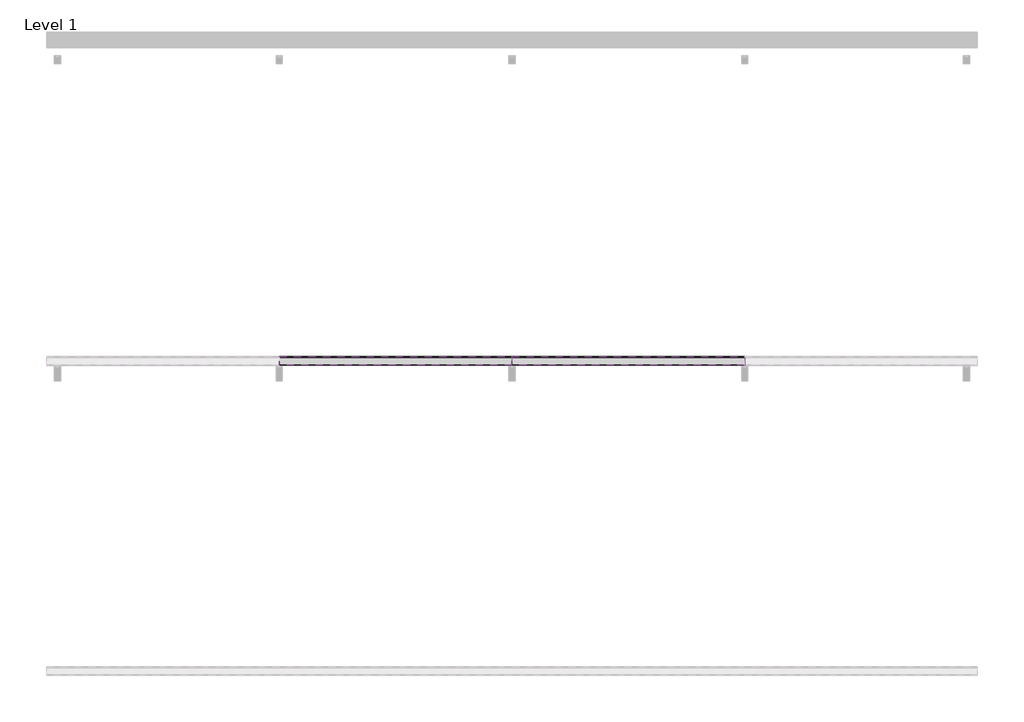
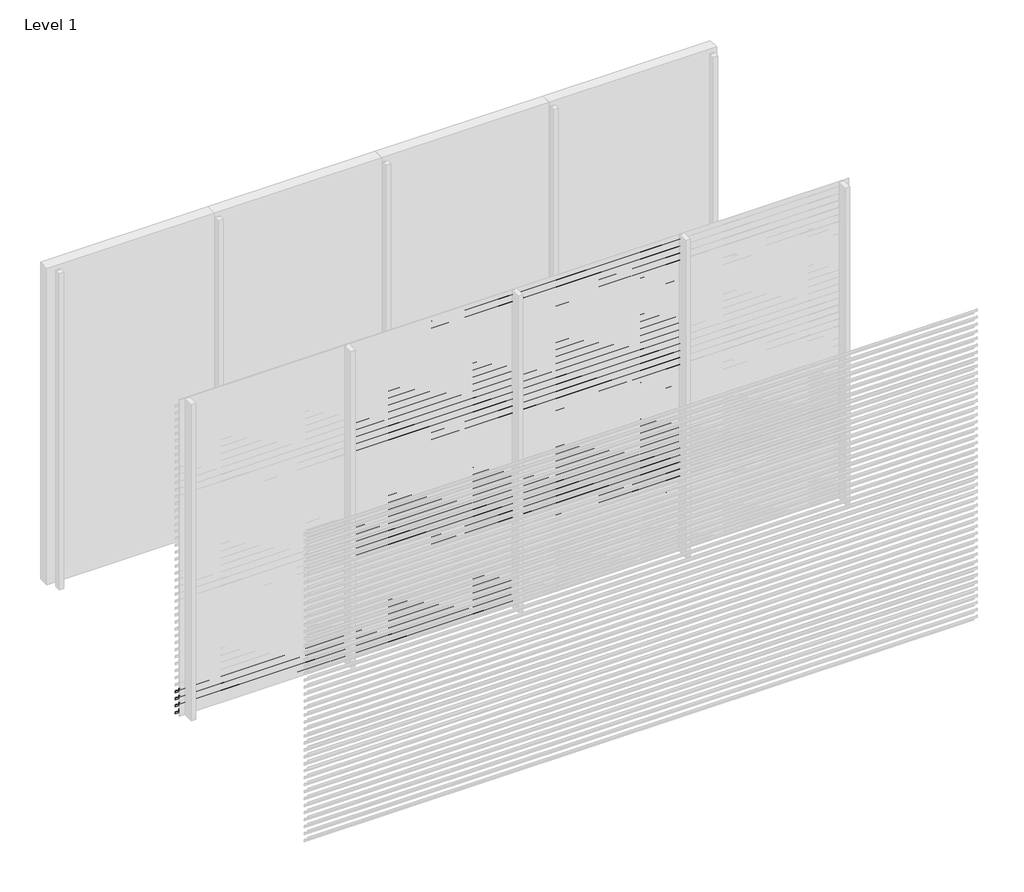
# One storey, part 9 of 25: 87 proxies.
"""IFC4 building model written with IfcOpenShell, lengths in millimetres."""

from ifc_helpers import new_model, si_unit, frame, origin, place, context, project, spatial, polyline, outline, extrude, element, save

model = new_model("IFC4")

# Units and contexts
model_context = context("Model", 3, world=origin())
ifc_project = project(units=[si_unit("LENGTHUNIT", "METRE", prefix="MILLI")], contexts=[model_context])

# Site, building, storey
site = spatial("IfcSite", under=ifc_project)
building = spatial("IfcBuilding", under=site)
storey = spatial("IfcBuildingStorey", under=building, Name="Level 1", Elevation=0.0)

# Proxies
placement = place(None, origin())
element("IfcBuildingElementProxy", 1, Name="Wall Sweeps", at=placement, inside=storey, context=model_context, shape_type="SweptSolid", body=[
    extrude(outline(polyline([(-35943.0, 207.5), (-35943.0, 187.5), (-35944.25, 188.2216933), (-35944.25, 206.7872415), (-35998.0, 244.3158044), (-35998.0, 264.0), (-35996.75, 264.0), (-35996.75, 245.0285629), (-35943.0, 207.5)])), frame((0.0, 0.0, 0.0), z_axis=(1.0, 0.0, 0.0), x_axis=(0.0, 1.0, 0.0)), (0.0, 0.0, 1.0), 1500.0),
])
element("IfcBuildingElementProxy", 2, Name="Wall Sweeps", at=placement, inside=storey, context=model_context, shape_type="SweptSolid", body=[
    extrude(outline(polyline([(-35943.0, 141.5), (-35943.0, 121.5), (-35944.25, 122.2216933), (-35944.25, 140.7872415), (-35998.0, 178.3158044), (-35998.0, 198.0), (-35996.75, 198.0), (-35996.75, 179.0285629), (-35943.0, 141.5)])), frame((0.0, 0.0, 0.0), z_axis=(1.0, 0.0, 0.0), x_axis=(0.0, 1.0, 0.0)), (0.0, 0.0, 1.0), 1500.0),
])
element("IfcBuildingElementProxy", 3, Name="Wall Sweeps", at=placement, inside=storey, context=model_context, shape_type="SweptSolid", body=[
    extrude(outline(polyline([(-35943.0, 75.5), (-35943.0, 55.5), (-35944.25, 56.2216933), (-35944.25, 74.7872415), (-35998.0, 112.3158044), (-35998.0, 132.0), (-35996.75, 132.0), (-35996.75, 113.0285629), (-35943.0, 75.5)])), frame((0.0, 0.0, 0.0), z_axis=(1.0, 0.0, 0.0), x_axis=(0.0, 1.0, 0.0)), (0.0, 0.0, 1.0), 1500.0),
])
element("IfcBuildingElementProxy", 4, Name="Wall Sweeps", at=placement, inside=storey, context=model_context, shape_type="SweptSolid", body=[
    extrude(outline(polyline([(-35943.0, 9.5), (-35943.0, -10.5), (-35944.25, -9.7783067), (-35944.25, 8.7872415), (-35998.0, 46.3158044), (-35998.0, 66.0), (-35996.75, 66.0), (-35996.75, 47.0285629), (-35943.0, 9.5)])), frame((0.0, 0.0, 0.0), z_axis=(1.0, 0.0, 0.0), x_axis=(0.0, 1.0, 0.0)), (0.0, 0.0, 1.0), 1500.0),
])
element("IfcBuildingElementProxy", 5, Name="Wall Sweeps", at=placement, inside=storey, context=model_context, shape_type="SweptSolid", body=[
    extrude(outline(polyline([(-35943.0, 2913.5), (-35943.0, 2893.5), (-35944.25, 2894.2216933), (-35944.25, 2912.7872415), (-35998.0, 2950.3158044), (-35998.0, 2970.0), (-35996.75, 2970.0), (-35996.75, 2951.0285629), (-35943.0, 2913.5)])), frame((1500.0, 0.0, 0.0), z_axis=(1.0, 0.0, 0.0), x_axis=(0.0, 1.0, 0.0)), (0.0, 0.0, 1.0), 1500.0),
])
element("IfcBuildingElementProxy", 6, Name="Wall Sweeps", at=placement, inside=storey, context=model_context, shape_type="SweptSolid", body=[
    extrude(outline(polyline([(-35943.0, 2847.5), (-35943.0, 2827.5), (-35944.25, 2828.2216933), (-35944.25, 2846.7872415), (-35998.0, 2884.3158044), (-35998.0, 2904.0), (-35996.75, 2904.0), (-35996.75, 2885.0285629), (-35943.0, 2847.5)])), frame((1500.0, 0.0, 0.0), z_axis=(1.0, 0.0, 0.0), x_axis=(0.0, 1.0, 0.0)), (0.0, 0.0, 1.0), 1500.0),
])
element("IfcBuildingElementProxy", 7, Name="Wall Sweeps", at=placement, inside=storey, context=model_context, shape_type="SweptSolid", body=[
    extrude(outline(polyline([(-35943.0, 2781.5), (-35943.0, 2761.5), (-35944.25, 2762.2216933), (-35944.25, 2780.7872415), (-35998.0, 2818.3158044), (-35998.0, 2838.0), (-35996.75, 2838.0), (-35996.75, 2819.0285629), (-35943.0, 2781.5)])), frame((1500.0, 0.0, 0.0), z_axis=(1.0, 0.0, 0.0), x_axis=(0.0, 1.0, 0.0)), (0.0, 0.0, 1.0), 1500.0),
])
element("IfcBuildingElementProxy", 8, Name="Wall Sweeps", at=placement, inside=storey, context=model_context, shape_type="SweptSolid", body=[
    extrude(outline(polyline([(-35943.0, 2715.5), (-35943.0, 2695.5), (-35944.25, 2696.2216933), (-35944.25, 2714.7872415), (-35998.0, 2752.3158044), (-35998.0, 2772.0), (-35996.75, 2772.0), (-35996.75, 2753.0285629), (-35943.0, 2715.5)])), frame((1500.0, 0.0, 0.0), z_axis=(1.0, 0.0, 0.0), x_axis=(0.0, 1.0, 0.0)), (0.0, 0.0, 1.0), 1500.0),
])
element("IfcBuildingElementProxy", 9, Name="Wall Sweeps", at=placement, inside=storey, context=model_context, shape_type="SweptSolid", body=[
    extrude(outline(polyline([(-35943.0, 2649.5), (-35943.0, 2629.5), (-35944.25, 2630.2216933), (-35944.25, 2648.7872415), (-35998.0, 2686.3158044), (-35998.0, 2706.0), (-35996.75, 2706.0), (-35996.75, 2687.0285629), (-35943.0, 2649.5)])), frame((1500.0, 0.0, 0.0), z_axis=(1.0, 0.0, 0.0), x_axis=(0.0, 1.0, 0.0)), (0.0, 0.0, 1.0), 1500.0),
])
element("IfcBuildingElementProxy", 10, Name="Wall Sweeps", at=placement, inside=storey, context=model_context, shape_type="SweptSolid", body=[
    extrude(outline(polyline([(-35943.0, 2583.5), (-35943.0, 2563.5), (-35944.25, 2564.2216933), (-35944.25, 2582.7872415), (-35998.0, 2620.3158044), (-35998.0, 2640.0), (-35996.75, 2640.0), (-35996.75, 2621.0285629), (-35943.0, 2583.5)])), frame((1500.0, 0.0, 0.0), z_axis=(1.0, 0.0, 0.0), x_axis=(0.0, 1.0, 0.0)), (0.0, 0.0, 1.0), 1500.0),
])
element("IfcBuildingElementProxy", 11, Name="Wall Sweeps", at=placement, inside=storey, context=model_context, shape_type="SweptSolid", body=[
    extrude(outline(polyline([(-35943.0, 2517.5), (-35943.0, 2497.5), (-35944.25, 2498.2216933), (-35944.25, 2516.7872415), (-35998.0, 2554.3158044), (-35998.0, 2574.0), (-35996.75, 2574.0), (-35996.75, 2555.0285629), (-35943.0, 2517.5)])), frame((1500.0, 0.0, 0.0), z_axis=(1.0, 0.0, 0.0), x_axis=(0.0, 1.0, 0.0)), (0.0, 0.0, 1.0), 1500.0),
])
element("IfcBuildingElementProxy", 12, Name="Wall Sweeps", at=placement, inside=storey, context=model_context, shape_type="SweptSolid", body=[
    extrude(outline(polyline([(-35943.0, 2451.5), (-35943.0, 2431.5), (-35944.25, 2432.2216933), (-35944.25, 2450.7872415), (-35998.0, 2488.3158044), (-35998.0, 2508.0), (-35996.75, 2508.0), (-35996.75, 2489.0285629), (-35943.0, 2451.5)])), frame((1500.0, 0.0, 0.0), z_axis=(1.0, 0.0, 0.0), x_axis=(0.0, 1.0, 0.0)), (0.0, 0.0, 1.0), 1500.0),
])
element("IfcBuildingElementProxy", 13, Name="Wall Sweeps", at=placement, inside=storey, context=model_context, shape_type="SweptSolid", body=[
    extrude(outline(polyline([(-35943.0, 2385.5), (-35943.0, 2365.5), (-35944.25, 2366.2216933), (-35944.25, 2384.7872415), (-35998.0, 2422.3158044), (-35998.0, 2442.0), (-35996.75, 2442.0), (-35996.75, 2423.0285629), (-35943.0, 2385.5)])), frame((1500.0, 0.0, 0.0), z_axis=(1.0, 0.0, 0.0), x_axis=(0.0, 1.0, 0.0)), (0.0, 0.0, 1.0), 1500.0),
])
element("IfcBuildingElementProxy", 14, Name="Wall Sweeps", at=placement, inside=storey, context=model_context, shape_type="SweptSolid", body=[
    extrude(outline(polyline([(-35943.0, 2319.5), (-35943.0, 2299.5), (-35944.25, 2300.2216933), (-35944.25, 2318.7872415), (-35998.0, 2356.3158044), (-35998.0, 2376.0), (-35996.75, 2376.0), (-35996.75, 2357.0285629), (-35943.0, 2319.5)])), frame((1500.0, 0.0, 0.0), z_axis=(1.0, 0.0, 0.0), x_axis=(0.0, 1.0, 0.0)), (0.0, 0.0, 1.0), 1500.0),
])
element("IfcBuildingElementProxy", 15, Name="Wall Sweeps", at=placement, inside=storey, context=model_context, shape_type="SweptSolid", body=[
    extrude(outline(polyline([(-35943.0, 2253.5), (-35943.0, 2233.5), (-35944.25, 2234.2216933), (-35944.25, 2252.7872415), (-35998.0, 2290.3158044), (-35998.0, 2310.0), (-35996.75, 2310.0), (-35996.75, 2291.0285629), (-35943.0, 2253.5)])), frame((1500.0, 0.0, 0.0), z_axis=(1.0, 0.0, 0.0), x_axis=(0.0, 1.0, 0.0)), (0.0, 0.0, 1.0), 1500.0),
])
element("IfcBuildingElementProxy", 16, Name="Wall Sweeps", at=placement, inside=storey, context=model_context, shape_type="SweptSolid", body=[
    extrude(outline(polyline([(-35943.0, 2187.5), (-35943.0, 2167.5), (-35944.25, 2168.2216933), (-35944.25, 2186.7872415), (-35998.0, 2224.3158044), (-35998.0, 2244.0), (-35996.75, 2244.0), (-35996.75, 2225.0285629), (-35943.0, 2187.5)])), frame((1500.0, 0.0, 0.0), z_axis=(1.0, 0.0, 0.0), x_axis=(0.0, 1.0, 0.0)), (0.0, 0.0, 1.0), 1500.0),
])
element("IfcBuildingElementProxy", 17, Name="Wall Sweeps", at=placement, inside=storey, context=model_context, shape_type="SweptSolid", body=[
    extrude(outline(polyline([(-35943.0, 2121.5), (-35943.0, 2101.5), (-35944.25, 2102.2216933), (-35944.25, 2120.7872415), (-35998.0, 2158.3158044), (-35998.0, 2178.0), (-35996.75, 2178.0), (-35996.75, 2159.0285629), (-35943.0, 2121.5)])), frame((1500.0, 0.0, 0.0), z_axis=(1.0, 0.0, 0.0), x_axis=(0.0, 1.0, 0.0)), (0.0, 0.0, 1.0), 1500.0),
])
element("IfcBuildingElementProxy", 18, Name="Wall Sweeps", at=placement, inside=storey, context=model_context, shape_type="SweptSolid", body=[
    extrude(outline(polyline([(-35943.0, 2055.5), (-35943.0, 2035.5), (-35944.25, 2036.2216933), (-35944.25, 2054.7872415), (-35998.0, 2092.3158044), (-35998.0, 2112.0), (-35996.75, 2112.0), (-35996.75, 2093.0285629), (-35943.0, 2055.5)])), frame((1500.0, 0.0, 0.0), z_axis=(1.0, 0.0, 0.0), x_axis=(0.0, 1.0, 0.0)), (0.0, 0.0, 1.0), 1500.0),
])
element("IfcBuildingElementProxy", 19, Name="Wall Sweeps", at=placement, inside=storey, context=model_context, shape_type="SweptSolid", body=[
    extrude(outline(polyline([(-35943.0, 1989.5), (-35943.0, 1969.5), (-35944.25, 1970.2216933), (-35944.25, 1988.7872415), (-35998.0, 2026.3158044), (-35998.0, 2046.0), (-35996.75, 2046.0), (-35996.75, 2027.0285629), (-35943.0, 1989.5)])), frame((1500.0, 0.0, 0.0), z_axis=(1.0, 0.0, 0.0), x_axis=(0.0, 1.0, 0.0)), (0.0, 0.0, 1.0), 1500.0),
])
element("IfcBuildingElementProxy", 20, Name="Wall Sweeps", at=placement, inside=storey, context=model_context, shape_type="SweptSolid", body=[
    extrude(outline(polyline([(-35943.0, 1923.5), (-35943.0, 1903.5), (-35944.25, 1904.2216933), (-35944.25, 1922.7872415), (-35998.0, 1960.3158044), (-35998.0, 1980.0), (-35996.75, 1980.0), (-35996.75, 1961.0285629), (-35943.0, 1923.5)])), frame((1500.0, 0.0, 0.0), z_axis=(1.0, 0.0, 0.0), x_axis=(0.0, 1.0, 0.0)), (0.0, 0.0, 1.0), 1500.0),
])
element("IfcBuildingElementProxy", 21, Name="Wall Sweeps", at=placement, inside=storey, context=model_context, shape_type="SweptSolid", body=[
    extrude(outline(polyline([(-35943.0, 1857.5), (-35943.0, 1837.5), (-35944.25, 1838.2216933), (-35944.25, 1856.7872415), (-35998.0, 1894.3158044), (-35998.0, 1914.0), (-35996.75, 1914.0), (-35996.75, 1895.0285629), (-35943.0, 1857.5)])), frame((1500.0, 0.0, 0.0), z_axis=(1.0, 0.0, 0.0), x_axis=(0.0, 1.0, 0.0)), (0.0, 0.0, 1.0), 1500.0),
])
element("IfcBuildingElementProxy", 22, Name="Wall Sweeps", at=placement, inside=storey, context=model_context, shape_type="SweptSolid", body=[
    extrude(outline(polyline([(-35943.0, 1791.5), (-35943.0, 1771.5), (-35944.25, 1772.2216933), (-35944.25, 1790.7872415), (-35998.0, 1828.3158044), (-35998.0, 1848.0), (-35996.75, 1848.0), (-35996.75, 1829.0285629), (-35943.0, 1791.5)])), frame((1500.0, 0.0, 0.0), z_axis=(1.0, 0.0, 0.0), x_axis=(0.0, 1.0, 0.0)), (0.0, 0.0, 1.0), 1500.0),
])
element("IfcBuildingElementProxy", 23, Name="Wall Sweeps", at=placement, inside=storey, context=model_context, shape_type="SweptSolid", body=[
    extrude(outline(polyline([(-35943.0, 1725.5), (-35943.0, 1705.5), (-35944.25, 1706.2216933), (-35944.25, 1724.7872415), (-35998.0, 1762.3158044), (-35998.0, 1782.0), (-35996.75, 1782.0), (-35996.75, 1763.0285629), (-35943.0, 1725.5)])), frame((1500.0, 0.0, 0.0), z_axis=(1.0, 0.0, 0.0), x_axis=(0.0, 1.0, 0.0)), (0.0, 0.0, 1.0), 1500.0),
])
element("IfcBuildingElementProxy", 24, Name="Wall Sweeps", at=placement, inside=storey, context=model_context, shape_type="SweptSolid", body=[
    extrude(outline(polyline([(-35943.0, 1659.5), (-35943.0, 1639.5), (-35944.25, 1640.2216933), (-35944.25, 1658.7872415), (-35998.0, 1696.3158044), (-35998.0, 1716.0), (-35996.75, 1716.0), (-35996.75, 1697.0285629), (-35943.0, 1659.5)])), frame((1500.0, 0.0, 0.0), z_axis=(1.0, 0.0, 0.0), x_axis=(0.0, 1.0, 0.0)), (0.0, 0.0, 1.0), 1500.0),
])
element("IfcBuildingElementProxy", 25, Name="Wall Sweeps", at=placement, inside=storey, context=model_context, shape_type="SweptSolid", body=[
    extrude(outline(polyline([(-35943.0, 1593.5), (-35943.0, 1573.5), (-35944.25, 1574.2216933), (-35944.25, 1592.7872415), (-35998.0, 1630.3158044), (-35998.0, 1650.0), (-35996.75, 1650.0), (-35996.75, 1631.0285629), (-35943.0, 1593.5)])), frame((1500.0, 0.0, 0.0), z_axis=(1.0, 0.0, 0.0), x_axis=(0.0, 1.0, 0.0)), (0.0, 0.0, 1.0), 1500.0),
])
element("IfcBuildingElementProxy", 26, Name="Wall Sweeps", at=placement, inside=storey, context=model_context, shape_type="SweptSolid", body=[
    extrude(outline(polyline([(-35943.0, 1527.5), (-35943.0, 1507.5), (-35944.25, 1508.2216933), (-35944.25, 1526.7872415), (-35998.0, 1564.3158044), (-35998.0, 1584.0), (-35996.75, 1584.0), (-35996.75, 1565.0285629), (-35943.0, 1527.5)])), frame((1500.0, 0.0, 0.0), z_axis=(1.0, 0.0, 0.0), x_axis=(0.0, 1.0, 0.0)), (0.0, 0.0, 1.0), 1500.0),
])
element("IfcBuildingElementProxy", 27, Name="Wall Sweeps", at=placement, inside=storey, context=model_context, shape_type="SweptSolid", body=[
    extrude(outline(polyline([(-35943.0, 1461.5), (-35943.0, 1441.5), (-35944.25, 1442.2216933), (-35944.25, 1460.7872415), (-35998.0, 1498.3158044), (-35998.0, 1518.0), (-35996.75, 1518.0), (-35996.75, 1499.0285629), (-35943.0, 1461.5)])), frame((1500.0, 0.0, 0.0), z_axis=(1.0, 0.0, 0.0), x_axis=(0.0, 1.0, 0.0)), (0.0, 0.0, 1.0), 1500.0),
])
element("IfcBuildingElementProxy", 28, Name="Wall Sweeps", at=placement, inside=storey, context=model_context, shape_type="SweptSolid", body=[
    extrude(outline(polyline([(-35943.0, 1395.5), (-35943.0, 1375.5), (-35944.25, 1376.2216933), (-35944.25, 1394.7872415), (-35998.0, 1432.3158044), (-35998.0, 1452.0), (-35996.75, 1452.0), (-35996.75, 1433.0285629), (-35943.0, 1395.5)])), frame((1500.0, 0.0, 0.0), z_axis=(1.0, 0.0, 0.0), x_axis=(0.0, 1.0, 0.0)), (0.0, 0.0, 1.0), 1500.0),
])
element("IfcBuildingElementProxy", 29, Name="Wall Sweeps", at=placement, inside=storey, context=model_context, shape_type="SweptSolid", body=[
    extrude(outline(polyline([(-35943.0, 1329.5), (-35943.0, 1309.5), (-35944.25, 1310.2216933), (-35944.25, 1328.7872415), (-35998.0, 1366.3158044), (-35998.0, 1386.0), (-35996.75, 1386.0), (-35996.75, 1367.0285629), (-35943.0, 1329.5)])), frame((1500.0, 0.0, 0.0), z_axis=(1.0, 0.0, 0.0), x_axis=(0.0, 1.0, 0.0)), (0.0, 0.0, 1.0), 1500.0),
])
element("IfcBuildingElementProxy", 30, Name="Wall Sweeps", at=placement, inside=storey, context=model_context, shape_type="SweptSolid", body=[
    extrude(outline(polyline([(-35943.0, 1263.5), (-35943.0, 1243.5), (-35944.25, 1244.2216933), (-35944.25, 1262.7872415), (-35998.0, 1300.3158044), (-35998.0, 1320.0), (-35996.75, 1320.0), (-35996.75, 1301.0285629), (-35943.0, 1263.5)])), frame((1500.0, 0.0, 0.0), z_axis=(1.0, 0.0, 0.0), x_axis=(0.0, 1.0, 0.0)), (0.0, 0.0, 1.0), 1500.0),
])
element("IfcBuildingElementProxy", 31, Name="Wall Sweeps", at=placement, inside=storey, context=model_context, shape_type="SweptSolid", body=[
    extrude(outline(polyline([(-35943.0, 1197.5), (-35943.0, 1177.5), (-35944.25, 1178.2216933), (-35944.25, 1196.7872415), (-35998.0, 1234.3158044), (-35998.0, 1254.0), (-35996.75, 1254.0), (-35996.75, 1235.0285629), (-35943.0, 1197.5)])), frame((1500.0, 0.0, 0.0), z_axis=(1.0, 0.0, 0.0), x_axis=(0.0, 1.0, 0.0)), (0.0, 0.0, 1.0), 1500.0),
])
element("IfcBuildingElementProxy", 32, Name="Wall Sweeps", at=placement, inside=storey, context=model_context, shape_type="SweptSolid", body=[
    extrude(outline(polyline([(-35943.0, 1131.5), (-35943.0, 1111.5), (-35944.25, 1112.2216933), (-35944.25, 1130.7872415), (-35998.0, 1168.3158044), (-35998.0, 1188.0), (-35996.75, 1188.0), (-35996.75, 1169.0285629), (-35943.0, 1131.5)])), frame((1500.0, 0.0, 0.0), z_axis=(1.0, 0.0, 0.0), x_axis=(0.0, 1.0, 0.0)), (0.0, 0.0, 1.0), 1500.0),
])
element("IfcBuildingElementProxy", 33, Name="Wall Sweeps", at=placement, inside=storey, context=model_context, shape_type="SweptSolid", body=[
    extrude(outline(polyline([(-35943.0, 1065.5), (-35943.0, 1045.5), (-35944.25, 1046.2216933), (-35944.25, 1064.7872415), (-35998.0, 1102.3158044), (-35998.0, 1122.0), (-35996.75, 1122.0), (-35996.75, 1103.0285629), (-35943.0, 1065.5)])), frame((1500.0, 0.0, 0.0), z_axis=(1.0, 0.0, 0.0), x_axis=(0.0, 1.0, 0.0)), (0.0, 0.0, 1.0), 1500.0),
])
element("IfcBuildingElementProxy", 34, Name="Wall Sweeps", at=placement, inside=storey, context=model_context, shape_type="SweptSolid", body=[
    extrude(outline(polyline([(-35943.0, 999.5), (-35943.0, 979.5), (-35944.25, 980.2216933), (-35944.25, 998.7872415), (-35998.0, 1036.3158044), (-35998.0, 1056.0), (-35996.75, 1056.0), (-35996.75, 1037.0285629), (-35943.0, 999.5)])), frame((1500.0, 0.0, 0.0), z_axis=(1.0, 0.0, 0.0), x_axis=(0.0, 1.0, 0.0)), (0.0, 0.0, 1.0), 1500.0),
])
element("IfcBuildingElementProxy", 35, Name="Wall Sweeps", at=placement, inside=storey, context=model_context, shape_type="SweptSolid", body=[
    extrude(outline(polyline([(-35943.0, 933.5), (-35943.0, 913.5), (-35944.25, 914.2216933), (-35944.25, 932.7872415), (-35998.0, 970.3158044), (-35998.0, 990.0), (-35996.75, 990.0), (-35996.75, 971.0285629), (-35943.0, 933.5)])), frame((1500.0, 0.0, 0.0), z_axis=(1.0, 0.0, 0.0), x_axis=(0.0, 1.0, 0.0)), (0.0, 0.0, 1.0), 1500.0),
])
element("IfcBuildingElementProxy", 36, Name="Wall Sweeps", at=placement, inside=storey, context=model_context, shape_type="SweptSolid", body=[
    extrude(outline(polyline([(-35943.0, 867.5), (-35943.0, 847.5), (-35944.25, 848.2216933), (-35944.25, 866.7872415), (-35998.0, 904.3158044), (-35998.0, 924.0), (-35996.75, 924.0), (-35996.75, 905.0285629), (-35943.0, 867.5)])), frame((1500.0, 0.0, 0.0), z_axis=(1.0, 0.0, 0.0), x_axis=(0.0, 1.0, 0.0)), (0.0, 0.0, 1.0), 1500.0),
])
element("IfcBuildingElementProxy", 37, Name="Wall Sweeps", at=placement, inside=storey, context=model_context, shape_type="SweptSolid", body=[
    extrude(outline(polyline([(-35943.0, 801.5), (-35943.0, 781.5), (-35944.25, 782.2216933), (-35944.25, 800.7872415), (-35998.0, 838.3158044), (-35998.0, 858.0), (-35996.75, 858.0), (-35996.75, 839.0285629), (-35943.0, 801.5)])), frame((1500.0, 0.0, 0.0), z_axis=(1.0, 0.0, 0.0), x_axis=(0.0, 1.0, 0.0)), (0.0, 0.0, 1.0), 1500.0),
])
element("IfcBuildingElementProxy", 38, Name="Wall Sweeps", at=placement, inside=storey, context=model_context, shape_type="SweptSolid", body=[
    extrude(outline(polyline([(-35943.0, 735.5), (-35943.0, 715.5), (-35944.25, 716.2216933), (-35944.25, 734.7872415), (-35998.0, 772.3158044), (-35998.0, 792.0), (-35996.75, 792.0), (-35996.75, 773.0285629), (-35943.0, 735.5)])), frame((1500.0, 0.0, 0.0), z_axis=(1.0, 0.0, 0.0), x_axis=(0.0, 1.0, 0.0)), (0.0, 0.0, 1.0), 1500.0),
])
element("IfcBuildingElementProxy", 39, Name="Wall Sweeps", at=placement, inside=storey, context=model_context, shape_type="SweptSolid", body=[
    extrude(outline(polyline([(-35943.0, 669.5), (-35943.0, 649.5), (-35944.25, 650.2216933), (-35944.25, 668.7872415), (-35998.0, 706.3158044), (-35998.0, 726.0), (-35996.75, 726.0), (-35996.75, 707.0285629), (-35943.0, 669.5)])), frame((1500.0, 0.0, 0.0), z_axis=(1.0, 0.0, 0.0), x_axis=(0.0, 1.0, 0.0)), (0.0, 0.0, 1.0), 1500.0),
])
element("IfcBuildingElementProxy", 40, Name="Wall Sweeps", at=placement, inside=storey, context=model_context, shape_type="SweptSolid", body=[
    extrude(outline(polyline([(-35943.0, 603.5), (-35943.0, 583.5), (-35944.25, 584.2216933), (-35944.25, 602.7872415), (-35998.0, 640.3158044), (-35998.0, 660.0), (-35996.75, 660.0), (-35996.75, 641.0285629), (-35943.0, 603.5)])), frame((1500.0, 0.0, 0.0), z_axis=(1.0, 0.0, 0.0), x_axis=(0.0, 1.0, 0.0)), (0.0, 0.0, 1.0), 1500.0),
])
element("IfcBuildingElementProxy", 41, Name="Wall Sweeps", at=placement, inside=storey, context=model_context, shape_type="SweptSolid", body=[
    extrude(outline(polyline([(-35943.0, 537.5), (-35943.0, 517.5), (-35944.25, 518.2216933), (-35944.25, 536.7872415), (-35998.0, 574.3158044), (-35998.0, 594.0), (-35996.75, 594.0), (-35996.75, 575.0285629), (-35943.0, 537.5)])), frame((1500.0, 0.0, 0.0), z_axis=(1.0, 0.0, 0.0), x_axis=(0.0, 1.0, 0.0)), (0.0, 0.0, 1.0), 1500.0),
])
element("IfcBuildingElementProxy", 42, Name="Wall Sweeps", at=placement, inside=storey, context=model_context, shape_type="SweptSolid", body=[
    extrude(outline(polyline([(-35943.0, 471.5), (-35943.0, 451.5), (-35944.25, 452.2216933), (-35944.25, 470.7872415), (-35998.0, 508.3158044), (-35998.0, 528.0), (-35996.75, 528.0), (-35996.75, 509.0285629), (-35943.0, 471.5)])), frame((1500.0, 0.0, 0.0), z_axis=(1.0, 0.0, 0.0), x_axis=(0.0, 1.0, 0.0)), (0.0, 0.0, 1.0), 1500.0),
])
element("IfcBuildingElementProxy", 43, Name="Wall Sweeps", at=placement, inside=storey, context=model_context, shape_type="SweptSolid", body=[
    extrude(outline(polyline([(-35943.0, 405.5), (-35943.0, 385.5), (-35944.25, 386.2216933), (-35944.25, 404.7872415), (-35998.0, 442.3158044), (-35998.0, 462.0), (-35996.75, 462.0), (-35996.75, 443.0285629), (-35943.0, 405.5)])), frame((1500.0, 0.0, 0.0), z_axis=(1.0, 0.0, 0.0), x_axis=(0.0, 1.0, 0.0)), (0.0, 0.0, 1.0), 1500.0),
])
element("IfcBuildingElementProxy", 44, Name="Wall Sweeps", at=placement, inside=storey, context=model_context, shape_type="SweptSolid", body=[
    extrude(outline(polyline([(-35943.0, 339.5), (-35943.0, 319.5), (-35944.25, 320.2216933), (-35944.25, 338.7872415), (-35998.0, 376.3158044), (-35998.0, 396.0), (-35996.75, 396.0), (-35996.75, 377.0285629), (-35943.0, 339.5)])), frame((1500.0, 0.0, 0.0), z_axis=(1.0, 0.0, 0.0), x_axis=(0.0, 1.0, 0.0)), (0.0, 0.0, 1.0), 1500.0),
])
element("IfcBuildingElementProxy", 45, Name="Wall Sweeps", at=placement, inside=storey, context=model_context, shape_type="SweptSolid", body=[
    extrude(outline(polyline([(-35943.0, 273.5), (-35943.0, 253.5), (-35944.25, 254.2216933), (-35944.25, 272.7872415), (-35998.0, 310.3158044), (-35998.0, 330.0), (-35996.75, 330.0), (-35996.75, 311.0285629), (-35943.0, 273.5)])), frame((1500.0, 0.0, 0.0), z_axis=(1.0, 0.0, 0.0), x_axis=(0.0, 1.0, 0.0)), (0.0, 0.0, 1.0), 1500.0),
])
element("IfcBuildingElementProxy", 46, Name="Wall Sweeps", at=placement, inside=storey, context=model_context, shape_type="SweptSolid", body=[
    extrude(outline(polyline([(-35943.0, 207.5), (-35943.0, 187.5), (-35944.25, 188.2216933), (-35944.25, 206.7872415), (-35998.0, 244.3158044), (-35998.0, 264.0), (-35996.75, 264.0), (-35996.75, 245.0285629), (-35943.0, 207.5)])), frame((1500.0, 0.0, 0.0), z_axis=(1.0, 0.0, 0.0), x_axis=(0.0, 1.0, 0.0)), (0.0, 0.0, 1.0), 1500.0),
])
element("IfcBuildingElementProxy", 47, Name="Wall Sweeps", at=placement, inside=storey, context=model_context, shape_type="SweptSolid", body=[
    extrude(outline(polyline([(-35943.0, 141.5), (-35943.0, 121.5), (-35944.25, 122.2216933), (-35944.25, 140.7872415), (-35998.0, 178.3158044), (-35998.0, 198.0), (-35996.75, 198.0), (-35996.75, 179.0285629), (-35943.0, 141.5)])), frame((1500.0, 0.0, 0.0), z_axis=(1.0, 0.0, 0.0), x_axis=(0.0, 1.0, 0.0)), (0.0, 0.0, 1.0), 1500.0),
])
element("IfcBuildingElementProxy", 48, Name="Wall Sweeps", at=placement, inside=storey, context=model_context, shape_type="SweptSolid", body=[
    extrude(outline(polyline([(-35943.0, 75.5), (-35943.0, 55.5), (-35944.25, 56.2216933), (-35944.25, 74.7872415), (-35998.0, 112.3158044), (-35998.0, 132.0), (-35996.75, 132.0), (-35996.75, 113.0285629), (-35943.0, 75.5)])), frame((1500.0, 0.0, 0.0), z_axis=(1.0, 0.0, 0.0), x_axis=(0.0, 1.0, 0.0)), (0.0, 0.0, 1.0), 1500.0),
])
element("IfcBuildingElementProxy", 49, Name="Wall Sweeps", at=placement, inside=storey, context=model_context, shape_type="SweptSolid", body=[
    extrude(outline(polyline([(-35943.0, 9.5), (-35943.0, -10.5), (-35944.25, -9.7783067), (-35944.25, 8.7872415), (-35998.0, 46.3158044), (-35998.0, 66.0), (-35996.75, 66.0), (-35996.75, 47.0285629), (-35943.0, 9.5)])), frame((1500.0, 0.0, 0.0), z_axis=(1.0, 0.0, 0.0), x_axis=(0.0, 1.0, 0.0)), (0.0, 0.0, 1.0), 1500.0),
])
element("IfcBuildingElementProxy", 50, Name="Wall Sweeps", at=placement, inside=storey, context=model_context, shape_type="SweptSolid", body=[
    extrude(outline(polyline([(-35943.0, 2913.5), (-35943.0, 2893.5), (-35944.25, 2894.2216933), (-35944.25, 2912.7872415), (-35998.0, 2950.3158044), (-35998.0, 2970.0), (-35996.75, 2970.0), (-35996.75, 2951.0285629), (-35943.0, 2913.5)])), frame((3000.0, 0.0, 0.0), z_axis=(1.0, 0.0, 0.0), x_axis=(0.0, 1.0, 0.0)), (0.0, 0.0, 1.0), 1500.0),
])
element("IfcBuildingElementProxy", 51, Name="Wall Sweeps", at=placement, inside=storey, context=model_context, shape_type="SweptSolid", body=[
    extrude(outline(polyline([(-35943.0, 2847.5), (-35943.0, 2827.5), (-35944.25, 2828.2216933), (-35944.25, 2846.7872415), (-35998.0, 2884.3158044), (-35998.0, 2904.0), (-35996.75, 2904.0), (-35996.75, 2885.0285629), (-35943.0, 2847.5)])), frame((3000.0, 0.0, 0.0), z_axis=(1.0, 0.0, 0.0), x_axis=(0.0, 1.0, 0.0)), (0.0, 0.0, 1.0), 1500.0),
])
element("IfcBuildingElementProxy", 52, Name="Wall Sweeps", at=placement, inside=storey, context=model_context, shape_type="SweptSolid", body=[
    extrude(outline(polyline([(-35943.0, 2781.5), (-35943.0, 2761.5), (-35944.25, 2762.2216933), (-35944.25, 2780.7872415), (-35998.0, 2818.3158044), (-35998.0, 2838.0), (-35996.75, 2838.0), (-35996.75, 2819.0285629), (-35943.0, 2781.5)])), frame((3000.0, 0.0, 0.0), z_axis=(1.0, 0.0, 0.0), x_axis=(0.0, 1.0, 0.0)), (0.0, 0.0, 1.0), 1500.0),
])
element("IfcBuildingElementProxy", 53, Name="Wall Sweeps", at=placement, inside=storey, context=model_context, shape_type="SweptSolid", body=[
    extrude(outline(polyline([(-35943.0, 2715.5), (-35943.0, 2695.5), (-35944.25, 2696.2216933), (-35944.25, 2714.7872415), (-35998.0, 2752.3158044), (-35998.0, 2772.0), (-35996.75, 2772.0), (-35996.75, 2753.0285629), (-35943.0, 2715.5)])), frame((3000.0, 0.0, 0.0), z_axis=(1.0, 0.0, 0.0), x_axis=(0.0, 1.0, 0.0)), (0.0, 0.0, 1.0), 1500.0),
])
element("IfcBuildingElementProxy", 54, Name="Wall Sweeps", at=placement, inside=storey, context=model_context, shape_type="SweptSolid", body=[
    extrude(outline(polyline([(-35943.0, 2649.5), (-35943.0, 2629.5), (-35944.25, 2630.2216933), (-35944.25, 2648.7872415), (-35998.0, 2686.3158044), (-35998.0, 2706.0), (-35996.75, 2706.0), (-35996.75, 2687.0285629), (-35943.0, 2649.5)])), frame((3000.0, 0.0, 0.0), z_axis=(1.0, 0.0, 0.0), x_axis=(0.0, 1.0, 0.0)), (0.0, 0.0, 1.0), 1500.0),
])
element("IfcBuildingElementProxy", 55, Name="Wall Sweeps", at=placement, inside=storey, context=model_context, shape_type="SweptSolid", body=[
    extrude(outline(polyline([(-35943.0, 2583.5), (-35943.0, 2563.5), (-35944.25, 2564.2216933), (-35944.25, 2582.7872415), (-35998.0, 2620.3158044), (-35998.0, 2640.0), (-35996.75, 2640.0), (-35996.75, 2621.0285629), (-35943.0, 2583.5)])), frame((3000.0, 0.0, 0.0), z_axis=(1.0, 0.0, 0.0), x_axis=(0.0, 1.0, 0.0)), (0.0, 0.0, 1.0), 1500.0),
])
element("IfcBuildingElementProxy", 56, Name="Wall Sweeps", at=placement, inside=storey, context=model_context, shape_type="SweptSolid", body=[
    extrude(outline(polyline([(-35943.0, 2517.5), (-35943.0, 2497.5), (-35944.25, 2498.2216933), (-35944.25, 2516.7872415), (-35998.0, 2554.3158044), (-35998.0, 2574.0), (-35996.75, 2574.0), (-35996.75, 2555.0285629), (-35943.0, 2517.5)])), frame((3000.0, 0.0, 0.0), z_axis=(1.0, 0.0, 0.0), x_axis=(0.0, 1.0, 0.0)), (0.0, 0.0, 1.0), 1500.0),
])
element("IfcBuildingElementProxy", 57, Name="Wall Sweeps", at=placement, inside=storey, context=model_context, shape_type="SweptSolid", body=[
    extrude(outline(polyline([(-35943.0, 2451.5), (-35943.0, 2431.5), (-35944.25, 2432.2216933), (-35944.25, 2450.7872415), (-35998.0, 2488.3158044), (-35998.0, 2508.0), (-35996.75, 2508.0), (-35996.75, 2489.0285629), (-35943.0, 2451.5)])), frame((3000.0, 0.0, 0.0), z_axis=(1.0, 0.0, 0.0), x_axis=(0.0, 1.0, 0.0)), (0.0, 0.0, 1.0), 1500.0),
])
element("IfcBuildingElementProxy", 58, Name="Wall Sweeps", at=placement, inside=storey, context=model_context, shape_type="SweptSolid", body=[
    extrude(outline(polyline([(-35943.0, 2385.5), (-35943.0, 2365.5), (-35944.25, 2366.2216933), (-35944.25, 2384.7872415), (-35998.0, 2422.3158044), (-35998.0, 2442.0), (-35996.75, 2442.0), (-35996.75, 2423.0285629), (-35943.0, 2385.5)])), frame((3000.0, 0.0, 0.0), z_axis=(1.0, 0.0, 0.0), x_axis=(0.0, 1.0, 0.0)), (0.0, 0.0, 1.0), 1500.0),
])
element("IfcBuildingElementProxy", 59, Name="Wall Sweeps", at=placement, inside=storey, context=model_context, shape_type="SweptSolid", body=[
    extrude(outline(polyline([(-35943.0, 2319.5), (-35943.0, 2299.5), (-35944.25, 2300.2216933), (-35944.25, 2318.7872415), (-35998.0, 2356.3158044), (-35998.0, 2376.0), (-35996.75, 2376.0), (-35996.75, 2357.0285629), (-35943.0, 2319.5)])), frame((3000.0, 0.0, 0.0), z_axis=(1.0, 0.0, 0.0), x_axis=(0.0, 1.0, 0.0)), (0.0, 0.0, 1.0), 1500.0),
])
element("IfcBuildingElementProxy", 60, Name="Wall Sweeps", at=placement, inside=storey, context=model_context, shape_type="SweptSolid", body=[
    extrude(outline(polyline([(-35943.0, 2253.5), (-35943.0, 2233.5), (-35944.25, 2234.2216933), (-35944.25, 2252.7872415), (-35998.0, 2290.3158044), (-35998.0, 2310.0), (-35996.75, 2310.0), (-35996.75, 2291.0285629), (-35943.0, 2253.5)])), frame((3000.0, 0.0, 0.0), z_axis=(1.0, 0.0, 0.0), x_axis=(0.0, 1.0, 0.0)), (0.0, 0.0, 1.0), 1500.0),
])
element("IfcBuildingElementProxy", 61, Name="Wall Sweeps", at=placement, inside=storey, context=model_context, shape_type="SweptSolid", body=[
    extrude(outline(polyline([(-35943.0, 2187.5), (-35943.0, 2167.5), (-35944.25, 2168.2216933), (-35944.25, 2186.7872415), (-35998.0, 2224.3158044), (-35998.0, 2244.0), (-35996.75, 2244.0), (-35996.75, 2225.0285629), (-35943.0, 2187.5)])), frame((3000.0, 0.0, 0.0), z_axis=(1.0, 0.0, 0.0), x_axis=(0.0, 1.0, 0.0)), (0.0, 0.0, 1.0), 1500.0),
])
element("IfcBuildingElementProxy", 62, Name="Wall Sweeps", at=placement, inside=storey, context=model_context, shape_type="SweptSolid", body=[
    extrude(outline(polyline([(-35943.0, 2121.5), (-35943.0, 2101.5), (-35944.25, 2102.2216933), (-35944.25, 2120.7872415), (-35998.0, 2158.3158044), (-35998.0, 2178.0), (-35996.75, 2178.0), (-35996.75, 2159.0285629), (-35943.0, 2121.5)])), frame((3000.0, 0.0, 0.0), z_axis=(1.0, 0.0, 0.0), x_axis=(0.0, 1.0, 0.0)), (0.0, 0.0, 1.0), 1500.0),
])
element("IfcBuildingElementProxy", 63, Name="Wall Sweeps", at=placement, inside=storey, context=model_context, shape_type="SweptSolid", body=[
    extrude(outline(polyline([(-35943.0, 2055.5), (-35943.0, 2035.5), (-35944.25, 2036.2216933), (-35944.25, 2054.7872415), (-35998.0, 2092.3158044), (-35998.0, 2112.0), (-35996.75, 2112.0), (-35996.75, 2093.0285629), (-35943.0, 2055.5)])), frame((3000.0, 0.0, 0.0), z_axis=(1.0, 0.0, 0.0), x_axis=(0.0, 1.0, 0.0)), (0.0, 0.0, 1.0), 1500.0),
])
element("IfcBuildingElementProxy", 64, Name="Wall Sweeps", at=placement, inside=storey, context=model_context, shape_type="SweptSolid", body=[
    extrude(outline(polyline([(-35943.0, 1989.5), (-35943.0, 1969.5), (-35944.25, 1970.2216933), (-35944.25, 1988.7872415), (-35998.0, 2026.3158044), (-35998.0, 2046.0), (-35996.75, 2046.0), (-35996.75, 2027.0285629), (-35943.0, 1989.5)])), frame((3000.0, 0.0, 0.0), z_axis=(1.0, 0.0, 0.0), x_axis=(0.0, 1.0, 0.0)), (0.0, 0.0, 1.0), 1500.0),
])
element("IfcBuildingElementProxy", 65, Name="Wall Sweeps", at=placement, inside=storey, context=model_context, shape_type="SweptSolid", body=[
    extrude(outline(polyline([(-35943.0, 1923.5), (-35943.0, 1903.5), (-35944.25, 1904.2216933), (-35944.25, 1922.7872415), (-35998.0, 1960.3158044), (-35998.0, 1980.0), (-35996.75, 1980.0), (-35996.75, 1961.0285629), (-35943.0, 1923.5)])), frame((3000.0, 0.0, 0.0), z_axis=(1.0, 0.0, 0.0), x_axis=(0.0, 1.0, 0.0)), (0.0, 0.0, 1.0), 1500.0),
])
element("IfcBuildingElementProxy", 66, Name="Wall Sweeps", at=placement, inside=storey, context=model_context, shape_type="SweptSolid", body=[
    extrude(outline(polyline([(-35943.0, 1857.5), (-35943.0, 1837.5), (-35944.25, 1838.2216933), (-35944.25, 1856.7872415), (-35998.0, 1894.3158044), (-35998.0, 1914.0), (-35996.75, 1914.0), (-35996.75, 1895.0285629), (-35943.0, 1857.5)])), frame((3000.0, 0.0, 0.0), z_axis=(1.0, 0.0, 0.0), x_axis=(0.0, 1.0, 0.0)), (0.0, 0.0, 1.0), 1500.0),
])
element("IfcBuildingElementProxy", 67, Name="Wall Sweeps", at=placement, inside=storey, context=model_context, shape_type="SweptSolid", body=[
    extrude(outline(polyline([(-35943.0, 1791.5), (-35943.0, 1771.5), (-35944.25, 1772.2216933), (-35944.25, 1790.7872415), (-35998.0, 1828.3158044), (-35998.0, 1848.0), (-35996.75, 1848.0), (-35996.75, 1829.0285629), (-35943.0, 1791.5)])), frame((3000.0, 0.0, 0.0), z_axis=(1.0, 0.0, 0.0), x_axis=(0.0, 1.0, 0.0)), (0.0, 0.0, 1.0), 1500.0),
])
element("IfcBuildingElementProxy", 68, Name="Wall Sweeps", at=placement, inside=storey, context=model_context, shape_type="SweptSolid", body=[
    extrude(outline(polyline([(-35943.0, 1725.5), (-35943.0, 1705.5), (-35944.25, 1706.2216933), (-35944.25, 1724.7872415), (-35998.0, 1762.3158044), (-35998.0, 1782.0), (-35996.75, 1782.0), (-35996.75, 1763.0285629), (-35943.0, 1725.5)])), frame((3000.0, 0.0, 0.0), z_axis=(1.0, 0.0, 0.0), x_axis=(0.0, 1.0, 0.0)), (0.0, 0.0, 1.0), 1500.0),
])
element("IfcBuildingElementProxy", 69, Name="Wall Sweeps", at=placement, inside=storey, context=model_context, shape_type="SweptSolid", body=[
    extrude(outline(polyline([(-35943.0, 1659.5), (-35943.0, 1639.5), (-35944.25, 1640.2216933), (-35944.25, 1658.7872415), (-35998.0, 1696.3158044), (-35998.0, 1716.0), (-35996.75, 1716.0), (-35996.75, 1697.0285629), (-35943.0, 1659.5)])), frame((3000.0, 0.0, 0.0), z_axis=(1.0, 0.0, 0.0), x_axis=(0.0, 1.0, 0.0)), (0.0, 0.0, 1.0), 1500.0),
])
element("IfcBuildingElementProxy", 70, Name="Wall Sweeps", at=placement, inside=storey, context=model_context, shape_type="SweptSolid", body=[
    extrude(outline(polyline([(-35943.0, 1593.5), (-35943.0, 1573.5), (-35944.25, 1574.2216933), (-35944.25, 1592.7872415), (-35998.0, 1630.3158044), (-35998.0, 1650.0), (-35996.75, 1650.0), (-35996.75, 1631.0285629), (-35943.0, 1593.5)])), frame((3000.0, 0.0, 0.0), z_axis=(1.0, 0.0, 0.0), x_axis=(0.0, 1.0, 0.0)), (0.0, 0.0, 1.0), 1500.0),
])
element("IfcBuildingElementProxy", 71, Name="Wall Sweeps", at=placement, inside=storey, context=model_context, shape_type="SweptSolid", body=[
    extrude(outline(polyline([(-35943.0, 1527.5), (-35943.0, 1507.5), (-35944.25, 1508.2216933), (-35944.25, 1526.7872415), (-35998.0, 1564.3158044), (-35998.0, 1584.0), (-35996.75, 1584.0), (-35996.75, 1565.0285629), (-35943.0, 1527.5)])), frame((3000.0, 0.0, 0.0), z_axis=(1.0, 0.0, 0.0), x_axis=(0.0, 1.0, 0.0)), (0.0, 0.0, 1.0), 1500.0),
])
element("IfcBuildingElementProxy", 72, Name="Wall Sweeps", at=placement, inside=storey, context=model_context, shape_type="SweptSolid", body=[
    extrude(outline(polyline([(-35943.0, 1461.5), (-35943.0, 1441.5), (-35944.25, 1442.2216933), (-35944.25, 1460.7872415), (-35998.0, 1498.3158044), (-35998.0, 1518.0), (-35996.75, 1518.0), (-35996.75, 1499.0285629), (-35943.0, 1461.5)])), frame((3000.0, 0.0, 0.0), z_axis=(1.0, 0.0, 0.0), x_axis=(0.0, 1.0, 0.0)), (0.0, 0.0, 1.0), 1500.0),
])
element("IfcBuildingElementProxy", 73, Name="Wall Sweeps", at=placement, inside=storey, context=model_context, shape_type="SweptSolid", body=[
    extrude(outline(polyline([(-35943.0, 1395.5), (-35943.0, 1375.5), (-35944.25, 1376.2216933), (-35944.25, 1394.7872415), (-35998.0, 1432.3158044), (-35998.0, 1452.0), (-35996.75, 1452.0), (-35996.75, 1433.0285629), (-35943.0, 1395.5)])), frame((3000.0, 0.0, 0.0), z_axis=(1.0, 0.0, 0.0), x_axis=(0.0, 1.0, 0.0)), (0.0, 0.0, 1.0), 1500.0),
])
element("IfcBuildingElementProxy", 74, Name="Wall Sweeps", at=placement, inside=storey, context=model_context, shape_type="SweptSolid", body=[
    extrude(outline(polyline([(-35943.0, 1329.5), (-35943.0, 1309.5), (-35944.25, 1310.2216933), (-35944.25, 1328.7872415), (-35998.0, 1366.3158044), (-35998.0, 1386.0), (-35996.75, 1386.0), (-35996.75, 1367.0285629), (-35943.0, 1329.5)])), frame((3000.0, 0.0, 0.0), z_axis=(1.0, 0.0, 0.0), x_axis=(0.0, 1.0, 0.0)), (0.0, 0.0, 1.0), 1500.0),
])
element("IfcBuildingElementProxy", 75, Name="Wall Sweeps", at=placement, inside=storey, context=model_context, shape_type="SweptSolid", body=[
    extrude(outline(polyline([(-35943.0, 1263.5), (-35943.0, 1243.5), (-35944.25, 1244.2216933), (-35944.25, 1262.7872415), (-35998.0, 1300.3158044), (-35998.0, 1320.0), (-35996.75, 1320.0), (-35996.75, 1301.0285629), (-35943.0, 1263.5)])), frame((3000.0, 0.0, 0.0), z_axis=(1.0, 0.0, 0.0), x_axis=(0.0, 1.0, 0.0)), (0.0, 0.0, 1.0), 1500.0),
])
element("IfcBuildingElementProxy", 76, Name="Wall Sweeps", at=placement, inside=storey, context=model_context, shape_type="SweptSolid", body=[
    extrude(outline(polyline([(-35943.0, 1197.5), (-35943.0, 1177.5), (-35944.25, 1178.2216933), (-35944.25, 1196.7872415), (-35998.0, 1234.3158044), (-35998.0, 1254.0), (-35996.75, 1254.0), (-35996.75, 1235.0285629), (-35943.0, 1197.5)])), frame((3000.0, 0.0, 0.0), z_axis=(1.0, 0.0, 0.0), x_axis=(0.0, 1.0, 0.0)), (0.0, 0.0, 1.0), 1500.0),
])
element("IfcBuildingElementProxy", 77, Name="Wall Sweeps", at=placement, inside=storey, context=model_context, shape_type="SweptSolid", body=[
    extrude(outline(polyline([(-35943.0, 1131.5), (-35943.0, 1111.5), (-35944.25, 1112.2216933), (-35944.25, 1130.7872415), (-35998.0, 1168.3158044), (-35998.0, 1188.0), (-35996.75, 1188.0), (-35996.75, 1169.0285629), (-35943.0, 1131.5)])), frame((3000.0, 0.0, 0.0), z_axis=(1.0, 0.0, 0.0), x_axis=(0.0, 1.0, 0.0)), (0.0, 0.0, 1.0), 1500.0),
])
element("IfcBuildingElementProxy", 78, Name="Wall Sweeps", at=placement, inside=storey, context=model_context, shape_type="SweptSolid", body=[
    extrude(outline(polyline([(-35943.0, 1065.5), (-35943.0, 1045.5), (-35944.25, 1046.2216933), (-35944.25, 1064.7872415), (-35998.0, 1102.3158044), (-35998.0, 1122.0), (-35996.75, 1122.0), (-35996.75, 1103.0285629), (-35943.0, 1065.5)])), frame((3000.0, 0.0, 0.0), z_axis=(1.0, 0.0, 0.0), x_axis=(0.0, 1.0, 0.0)), (0.0, 0.0, 1.0), 1500.0),
])
element("IfcBuildingElementProxy", 79, Name="Wall Sweeps", at=placement, inside=storey, context=model_context, shape_type="SweptSolid", body=[
    extrude(outline(polyline([(-35943.0, 999.5), (-35943.0, 979.5), (-35944.25, 980.2216933), (-35944.25, 998.7872415), (-35998.0, 1036.3158044), (-35998.0, 1056.0), (-35996.75, 1056.0), (-35996.75, 1037.0285629), (-35943.0, 999.5)])), frame((3000.0, 0.0, 0.0), z_axis=(1.0, 0.0, 0.0), x_axis=(0.0, 1.0, 0.0)), (0.0, 0.0, 1.0), 1500.0),
])
element("IfcBuildingElementProxy", 80, Name="Wall Sweeps", at=placement, inside=storey, context=model_context, shape_type="SweptSolid", body=[
    extrude(outline(polyline([(-35943.0, 933.5), (-35943.0, 913.5), (-35944.25, 914.2216933), (-35944.25, 932.7872415), (-35998.0, 970.3158044), (-35998.0, 990.0), (-35996.75, 990.0), (-35996.75, 971.0285629), (-35943.0, 933.5)])), frame((3000.0, 0.0, 0.0), z_axis=(1.0, 0.0, 0.0), x_axis=(0.0, 1.0, 0.0)), (0.0, 0.0, 1.0), 1500.0),
])
element("IfcBuildingElementProxy", 81, Name="Wall Sweeps", at=placement, inside=storey, context=model_context, shape_type="SweptSolid", body=[
    extrude(outline(polyline([(-35943.0, 867.5), (-35943.0, 847.5), (-35944.25, 848.2216933), (-35944.25, 866.7872415), (-35998.0, 904.3158044), (-35998.0, 924.0), (-35996.75, 924.0), (-35996.75, 905.0285629), (-35943.0, 867.5)])), frame((3000.0, 0.0, 0.0), z_axis=(1.0, 0.0, 0.0), x_axis=(0.0, 1.0, 0.0)), (0.0, 0.0, 1.0), 1500.0),
])
element("IfcBuildingElementProxy", 82, Name="Wall Sweeps", at=placement, inside=storey, context=model_context, shape_type="SweptSolid", body=[
    extrude(outline(polyline([(-35943.0, 801.5), (-35943.0, 781.5), (-35944.25, 782.2216933), (-35944.25, 800.7872415), (-35998.0, 838.3158044), (-35998.0, 858.0), (-35996.75, 858.0), (-35996.75, 839.0285629), (-35943.0, 801.5)])), frame((3000.0, 0.0, 0.0), z_axis=(1.0, 0.0, 0.0), x_axis=(0.0, 1.0, 0.0)), (0.0, 0.0, 1.0), 1500.0),
])
element("IfcBuildingElementProxy", 83, Name="Wall Sweeps", at=placement, inside=storey, context=model_context, shape_type="SweptSolid", body=[
    extrude(outline(polyline([(-35943.0, 735.5), (-35943.0, 715.5), (-35944.25, 716.2216933), (-35944.25, 734.7872415), (-35998.0, 772.3158044), (-35998.0, 792.0), (-35996.75, 792.0), (-35996.75, 773.0285629), (-35943.0, 735.5)])), frame((3000.0, 0.0, 0.0), z_axis=(1.0, 0.0, 0.0), x_axis=(0.0, 1.0, 0.0)), (0.0, 0.0, 1.0), 1500.0),
])
element("IfcBuildingElementProxy", 84, Name="Wall Sweeps", at=placement, inside=storey, context=model_context, shape_type="SweptSolid", body=[
    extrude(outline(polyline([(-35943.0, 669.5), (-35943.0, 649.5), (-35944.25, 650.2216933), (-35944.25, 668.7872415), (-35998.0, 706.3158044), (-35998.0, 726.0), (-35996.75, 726.0), (-35996.75, 707.0285629), (-35943.0, 669.5)])), frame((3000.0, 0.0, 0.0), z_axis=(1.0, 0.0, 0.0), x_axis=(0.0, 1.0, 0.0)), (0.0, 0.0, 1.0), 1500.0),
])
element("IfcBuildingElementProxy", 85, Name="Wall Sweeps", at=placement, inside=storey, context=model_context, shape_type="SweptSolid", body=[
    extrude(outline(polyline([(-35943.0, 603.5), (-35943.0, 583.5), (-35944.25, 584.2216933), (-35944.25, 602.7872415), (-35998.0, 640.3158044), (-35998.0, 660.0), (-35996.75, 660.0), (-35996.75, 641.0285629), (-35943.0, 603.5)])), frame((3000.0, 0.0, 0.0), z_axis=(1.0, 0.0, 0.0), x_axis=(0.0, 1.0, 0.0)), (0.0, 0.0, 1.0), 1500.0),
])
element("IfcBuildingElementProxy", 86, Name="Wall Sweeps", at=placement, inside=storey, context=model_context, shape_type="SweptSolid", body=[
    extrude(outline(polyline([(-35943.0, 537.5), (-35943.0, 517.5), (-35944.25, 518.2216933), (-35944.25, 536.7872415), (-35998.0, 574.3158044), (-35998.0, 594.0), (-35996.75, 594.0), (-35996.75, 575.0285629), (-35943.0, 537.5)])), frame((3000.0, 0.0, 0.0), z_axis=(1.0, 0.0, 0.0), x_axis=(0.0, 1.0, 0.0)), (0.0, 0.0, 1.0), 1500.0),
])
element("IfcBuildingElementProxy", 87, Name="Wall Sweeps", at=placement, inside=storey, context=model_context, shape_type="SweptSolid", body=[
    extrude(outline(polyline([(-35943.0, 471.5), (-35943.0, 451.5), (-35944.25, 452.2216933), (-35944.25, 470.7872415), (-35998.0, 508.3158044), (-35998.0, 528.0), (-35996.75, 528.0), (-35996.75, 509.0285629), (-35943.0, 471.5)])), frame((3000.0, 0.0, 0.0), z_axis=(1.0, 0.0, 0.0), x_axis=(0.0, 1.0, 0.0)), (0.0, 0.0, 1.0), 1500.0),
])

save(model, "model.ifc")
